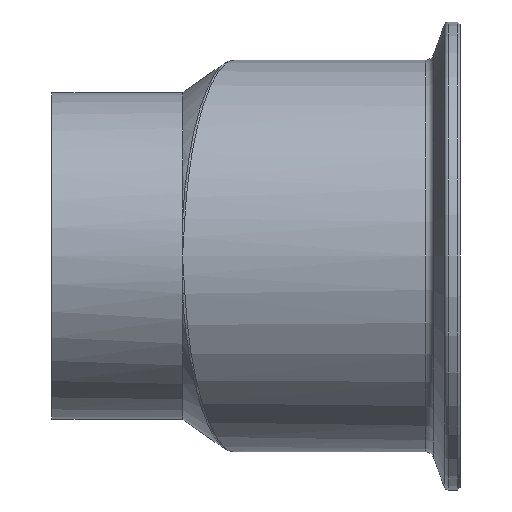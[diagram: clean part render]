
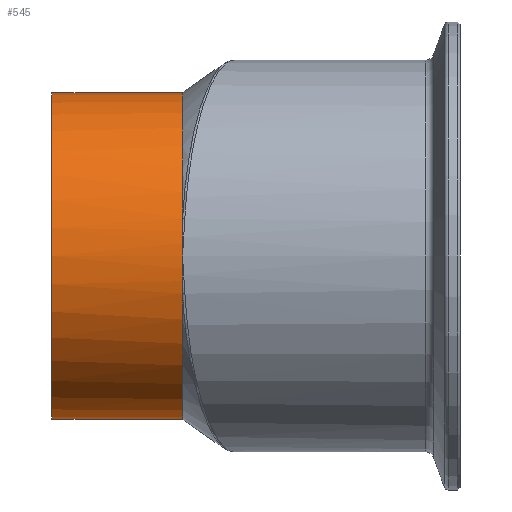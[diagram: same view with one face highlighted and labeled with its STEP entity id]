
A CAD part, front view. The second image highlights one B-rep face of the part: STEP entity #545.
In plain terms, the highlighted cylindrical face has radius 31.75 mm (diameter 63.5 mm), a partial arc.
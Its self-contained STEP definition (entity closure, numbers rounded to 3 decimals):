
#6 = VERTEX_POINT ( 'NONE', #1635 ) ;
#51 = CARTESIAN_POINT ( 'NONE',  ( 8.065, -6.35, 0. ) ) ;
#81 = EDGE_CURVE ( 'NONE', #6, #376, #1564, .T. ) ;
#131 = DIRECTION ( 'NONE',  ( 0., 0., -1. ) ) ;
#144 = AXIS2_PLACEMENT_3D ( 'NONE', #470, #463, #456 ) ;
#192 = EDGE_CURVE ( 'NONE', #1114, #811, #508, .T. ) ;
#218 = CARTESIAN_POINT ( 'NONE',  ( -14.288, -6.35, 0. ) ) ;
#219 = CARTESIAN_POINT ( 'NONE',  ( -14.288, -6.35, 0. ) ) ;
#222 = VERTEX_POINT ( 'NONE', #384 ) ;
#246 = EDGE_CURVE ( 'NONE', #733, #477, #871, .T. ) ;
#257 = AXIS2_PLACEMENT_3D ( 'NONE', #219, #343, #357 ) ;
#337 = CIRCLE ( 'NONE', #514, 31.75 ) ;
#341 = VECTOR ( 'NONE', #513, 1000. ) ;
#343 = DIRECTION ( 'NONE',  ( 1., 0., 0. ) ) ;
#357 = DIRECTION ( 'NONE',  ( 0., 0., -1. ) ) ;
#376 = VERTEX_POINT ( 'NONE', #541 ) ;
#384 = CARTESIAN_POINT ( 'NONE',  ( -39.688, -6.35, 31.75 ) ) ;
#386 = CARTESIAN_POINT ( 'NONE',  ( -14.288, -37.244, -7.322 ) ) ;
#404 = CARTESIAN_POINT ( 'NONE',  ( 8.065, -6.35, 31.75 ) ) ;
#430 = AXIS2_PLACEMENT_3D ( 'NONE', #51, #1341, #131 ) ;
#442 = CARTESIAN_POINT ( 'NONE',  ( -14.288, -6.35, 0. ) ) ;
#456 = DIRECTION ( 'NONE',  ( 0., 0., -1. ) ) ;
#463 = DIRECTION ( 'NONE',  ( 1., 0., 0. ) ) ;
#470 = CARTESIAN_POINT ( 'NONE',  ( -14.288, -6.35, 0. ) ) ;
#477 = VERTEX_POINT ( 'NONE', #1727 ) ;
#508 = CIRCLE ( 'NONE', #144, 31.75 ) ;
#513 = DIRECTION ( 'NONE',  ( 1., 0., 0. ) ) ;
#514 = AXIS2_PLACEMENT_3D ( 'NONE', #218, #1414, #1132 ) ;
#541 = CARTESIAN_POINT ( 'NONE',  ( -14.288, -6.35, -31.75 ) ) ;
#545 = ADVANCED_FACE ( 'NONE', ( #892 ), #835, .T. ) ;
#555 = ORIENTED_EDGE ( 'NONE', *, *, #1645, .F. ) ;
#589 = ORIENTED_EDGE ( 'NONE', *, *, #246, .F. ) ;
#662 = CIRCLE ( 'NONE', #1569, 31.75 ) ;
#694 = VECTOR ( 'NONE', #1345, 1000. ) ;
#733 = VERTEX_POINT ( 'NONE', #1510 ) ;
#811 = VERTEX_POINT ( 'NONE', #386 ) ;
#813 = CIRCLE ( 'NONE', #1503, 31.75 ) ;
#835 = CYLINDRICAL_SURFACE ( 'NONE', #430, 31.75 ) ;
#871 = CIRCLE ( 'NONE', #257, 31.75 ) ;
#892 = FACE_OUTER_BOUND ( 'NONE', #1588, .T. ) ;
#936 = EDGE_CURVE ( 'NONE', #222, #6, #813, .T. ) ;
#1000 = ORIENTED_EDGE ( 'NONE', *, *, #936, .T. ) ;
#1114 = VERTEX_POINT ( 'NONE', #1160 ) ;
#1132 = DIRECTION ( 'NONE',  ( 0., 0., -1. ) ) ;
#1160 = CARTESIAN_POINT ( 'NONE',  ( -14.288, -38.1, 0. ) ) ;
#1275 = CARTESIAN_POINT ( 'NONE',  ( -39.688, -6.35, 0. ) ) ;
#1280 = DIRECTION ( 'NONE',  ( 1., 0., 0. ) ) ;
#1287 = DIRECTION ( 'NONE',  ( 0., 0., -1. ) ) ;
#1341 = DIRECTION ( 'NONE',  ( 1., 0., 0. ) ) ;
#1345 = DIRECTION ( 'NONE',  ( 1., 0., 0. ) ) ;
#1358 = CARTESIAN_POINT ( 'NONE',  ( 8.065, -6.35, -31.75 ) ) ;
#1362 = ORIENTED_EDGE ( 'NONE', *, *, #1376, .F. ) ;
#1376 = EDGE_CURVE ( 'NONE', #222, #733, #1686, .T. ) ;
#1403 = ORIENTED_EDGE ( 'NONE', *, *, #192, .F. ) ;
#1414 = DIRECTION ( 'NONE',  ( 1., 0., 0. ) ) ;
#1491 = ORIENTED_EDGE ( 'NONE', *, *, #1905, .F. ) ;
#1503 = AXIS2_PLACEMENT_3D ( 'NONE', #1275, #1280, #1287 ) ;
#1510 = CARTESIAN_POINT ( 'NONE',  ( -14.288, -6.35, 31.75 ) ) ;
#1564 = LINE ( 'NONE', #1358, #694 ) ;
#1569 = AXIS2_PLACEMENT_3D ( 'NONE', #442, #1771, #1776 ) ;
#1588 = EDGE_LOOP ( 'NONE', ( #1362, #1000, #1722, #555, #1403, #1491, #589 ) ) ;
#1635 = CARTESIAN_POINT ( 'NONE',  ( -39.688, -6.35, -31.75 ) ) ;
#1645 = EDGE_CURVE ( 'NONE', #811, #376, #662, .T. ) ;
#1686 = LINE ( 'NONE', #404, #341 ) ;
#1722 = ORIENTED_EDGE ( 'NONE', *, *, #81, .T. ) ;
#1727 = CARTESIAN_POINT ( 'NONE',  ( -14.288, -37.244, 7.322 ) ) ;
#1771 = DIRECTION ( 'NONE',  ( 1., 0., 0. ) ) ;
#1776 = DIRECTION ( 'NONE',  ( 0., 0., -1. ) ) ;
#1905 = EDGE_CURVE ( 'NONE', #477, #1114, #337, .T. ) ;
